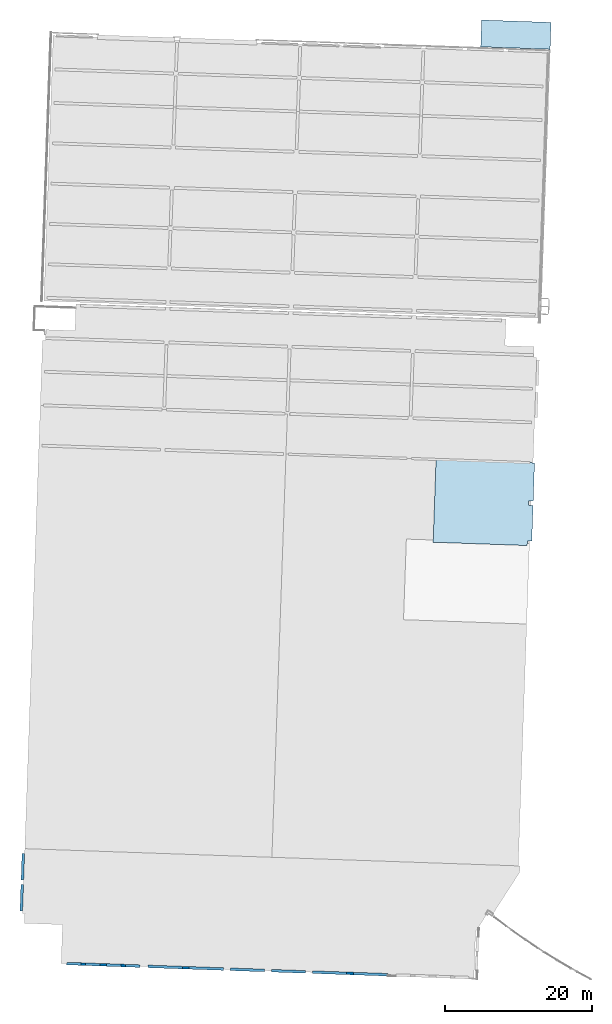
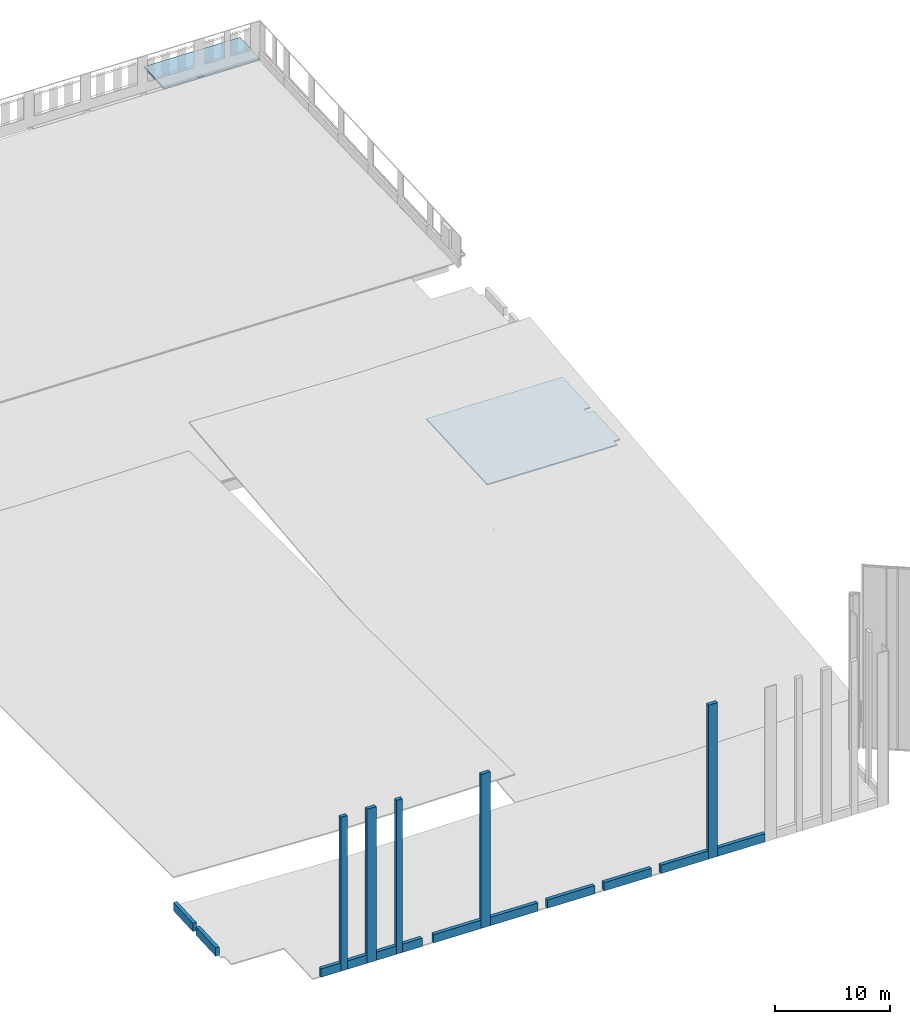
# One storey, part 9 of 17: 17 walls, 2 slabs.
"""IFC2X3 building model written with IfcOpenShell, lengths in feet."""

from ifc_helpers import new_model, entity, si_unit, converted_unit, derived_unit, direction, frame, frame_2d, origin, place, context, subcontext, project, spatial, polyline, rectangle, outline, extrude, material, layer, layer_set, layer_usage, type_object, element, save


model = new_model("IFC2X3")

# Units and contexts
model_context = context("Model", 3, precision=0.0001, world=origin(), true_north=direction((0.999390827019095, 0.0348994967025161)))
body_context = subcontext(model_context, "Body", "Model", "MODEL_VIEW")
ifc_project = project(units=[converted_unit("LENGTHUNIT", "FOOT", entity("IfcRatioMeasure", 0.3048), si_unit("LENGTHUNIT", "METRE"), dimensions=[1, 0, 0, 0, 0, 0, 0]), converted_unit("AREAUNIT", "SQUARE FOOT", entity("IfcRatioMeasure", 0.09290304), si_unit("AREAUNIT", "SQUARE_METRE"), dimensions=[2, 0, 0, 0, 0, 0, 0]), converted_unit("VOLUMEUNIT", "CUBIC FOOT", entity("IfcRatioMeasure", 0.028316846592), si_unit("VOLUMEUNIT", "CUBIC_METRE"), dimensions=[3, 0, 0, 0, 0, 0, 0]), converted_unit("PLANEANGLEUNIT", "DEGREE", entity("IfcRatioMeasure", 0.0174532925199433), si_unit("PLANEANGLEUNIT", "RADIAN"), dimensions=[0, 0, 0, 0, 0, 0, 0]), si_unit("MASSUNIT", "GRAM", prefix="KILO"), si_unit("TIMEUNIT", "SECOND"), si_unit("FREQUENCYUNIT", "HERTZ"), si_unit("THERMODYNAMICTEMPERATUREUNIT", "DEGREE_CELSIUS"), derived_unit("THERMALTRANSMITTANCEUNIT", [(si_unit("MASSUNIT", "GRAM", prefix="KILO"), 1), (si_unit("THERMODYNAMICTEMPERATUREUNIT", "KELVIN"), -1), (si_unit("TIMEUNIT", "SECOND"), -3)]), derived_unit("VOLUMETRICFLOWRATEUNIT", [(si_unit("LENGTHUNIT", "METRE"), 3), (si_unit("TIMEUNIT", "SECOND"), -1)]), si_unit("ELECTRICCURRENTUNIT", "AMPERE"), si_unit("ELECTRICVOLTAGEUNIT", "VOLT"), si_unit("POWERUNIT", "WATT"), si_unit("FORCEUNIT", "NEWTON"), si_unit("ILLUMINANCEUNIT", "LUX"), si_unit("LUMINOUSFLUXUNIT", "LUMEN"), si_unit("LUMINOUSINTENSITYUNIT", "CANDELA"), derived_unit("USERDEFINED", [(si_unit("MASSUNIT", "GRAM", prefix="KILO"), -1), (si_unit("LENGTHUNIT", "METRE"), -2), (si_unit("TIMEUNIT", "SECOND"), 3), (si_unit("LUMINOUSFLUXUNIT", "LUMEN"), 1)]), derived_unit("LINEARVELOCITYUNIT", [(si_unit("LENGTHUNIT", "METRE"), 1), (si_unit("TIMEUNIT", "SECOND"), -1)]), si_unit("PRESSUREUNIT", "PASCAL"), derived_unit("USERDEFINED", [(si_unit("LENGTHUNIT", "METRE"), -2), (si_unit("MASSUNIT", "GRAM", prefix="KILO"), 1), (si_unit("TIMEUNIT", "SECOND"), -2)])], contexts=[model_context])

# Site, building, storey
site_placement = place(None, frame((892.518771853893, 322.38689265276, 0.00393700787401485), z_axis=(0.0, 0.0, 1.0), x_axis=(0.0348994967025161, 0.999390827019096, 0.0)))
site = spatial("IfcSite", under=ifc_project, at=site_placement, Name="Default", CompositionType="ELEMENT")
building_placement = place(site_placement, origin())
building = spatial("IfcBuilding", under=site, at=building_placement, CompositionType="ELEMENT")
storey_placement = place(building_placement, frame((0.0, 0.0, 557.0)))
storey = spatial("IfcBuildingStorey", under=building, at=storey_placement, Name="Existing Garage - 1st Level", CompositionType="ELEMENT", Elevation=557.0)

# Slabs
ifc_material_1 = material(Name="Concrete - Cast-in-Place Concrete")
ifc_layer_1 = layer(ifc_material_1, 0.416666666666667)
ifc_layer_set_1 = layer_set([ifc_layer_1], Name="Floor:Concrete Slab - 5\"")
ifc_layer_usage_1 = layer_usage(ifc_layer_set_1, "AXIS3", "POSITIVE", 0.0)
slab_1_placement = place(storey_placement, origin())
element("IfcSlab", 1, at=slab_1_placement, inside=storey, material=ifc_layer_usage_1, Name="Floor:Concrete Slab - 5\"", ObjectType="Floor:Concrete Slab - 5\"", PredefinedType="FLOOR", context=body_context, shape_type="SweptSolid", body=[
    extrude(outline(polyline([(-7.59999999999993, -15.4000000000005), (34.3999999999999, -15.4000000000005), (34.3999999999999, 21.600000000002), (-9.59999999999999, 21.600000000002), (-9.59999999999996, 4.59999999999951), (-7.59999999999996, 4.59999999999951), (-7.59999999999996, 2.59999999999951), (-9.60000000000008, 2.59999999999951), (-9.60000000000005, -13.4000000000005), (-7.59999999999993, -13.4000000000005), (-7.59999999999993, -15.4000000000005)])), frame((18.327254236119, 245.363953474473, 0.0), z_axis=(0.0, 0.0, -1.0), x_axis=(0.0, 1.0, 0.0)), (0.0, 0.0, 1.0), 0.416666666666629),
])
ifc_layer_2 = layer(ifc_material_1, 0.666666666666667)
ifc_layer_set_2 = layer_set([ifc_layer_2], Name="Floor:Concrete Slab - 8\"")
ifc_layer_usage_2 = layer_usage(ifc_layer_set_2, "AXIS3", "POSITIVE", 0.0)
slab_2_placement = place(storey_placement, origin())
element("IfcSlab", 2, at=slab_2_placement, inside=storey, material=ifc_layer_usage_2, Name="Floor:Concrete Slab - 8\"", ObjectType="Floor:Concrete Slab - 8\"", PredefinedType="FLOOR", context=body_context, shape_type="SweptSolid", body=[
    extrude(rectangle(XDim=30.9999999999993, YDim=11.9999999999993, at=frame_2d((-1.4210854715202e-14, 0.0), x_axis=(1.0, 0.0))), frame((230.593959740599, 250.763953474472, -3.5), z_axis=(0.0, 0.0, -1.0), x_axis=(0.0, 1.0, 0.0)), (0.0, 0.0, 1.0), 0.666666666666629),
])

# Walls
ifc_material_2 = material(Name="Masonry - Brick")
ifc_layer_3 = layer(ifc_material_2, 0.302083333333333)
ifc_material_3 = material(Name="Misc. Air Layers - Air Space")
ifc_layer_4 = layer(ifc_material_3, 0.197916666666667)
ifc_material_4 = material(Name="Concrete - Cast-in-Place Concrete_hatch surface")
ifc_layer_5 = layer(ifc_material_4, 0.666666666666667)
ifc_layer_set_3 = layer_set([ifc_layer_3, ifc_layer_4, ifc_layer_5], Name="Basic Wall:(existing)Exterior - Brick on Conc - 1'-2\"(2\" air space)")
ifc_layer_usage_3 = layer_usage(ifc_layer_set_3, "AXIS2", "POSITIVE", -0.583333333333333)
wall_type_1 = type_object("IfcWallType", Name="Basic Wall:(existing)Exterior - Brick on Conc - 1'-2\"(2\" air space)", PredefinedType="STANDARD", material=ifc_layer_set_3)
wall_1_placement = place(storey_placement, frame((-190.656079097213, 436.597423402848, 0.0), z_axis=(0.0, 0.0, 1.0), x_axis=(0.0, -1.0, 0.0)))
element("IfcWallStandardCase", 3, at=wall_1_placement, inside=storey, type_object=wall_type_1, material=ifc_layer_usage_3, Name="Basic Wall:(existing)Exterior - Brick on Conc - 1'-2\"(2\" air space)", ObjectType="Basic Wall:(existing)Exterior - Brick on Conc - 1'-2\"(2\" air space)", context=body_context, shape_type="SweptSolid", body=[
    extrude(rectangle(XDim=6.41670081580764, YDim=1.16666666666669, at=frame_2d((3.20835040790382, -3.38618022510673e-15), x_axis=(-1.0, 0.0))), origin(), (0.0, 0.0, 1.0), 2.89583333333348),
])
ifc_layer_usage_4 = layer_usage(ifc_layer_set_3, "AXIS2", "POSITIVE", -0.583333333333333)
wall_2_placement = place(storey_placement, frame((-190.656079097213, 428.180722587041, 0.0), z_axis=(0.0, 0.0, 1.0), x_axis=(0.0, -1.0, 0.0)))
element("IfcWallStandardCase", 4, at=wall_2_placement, inside=storey, type_object=wall_type_1, material=ifc_layer_usage_4, Name="Basic Wall:(existing)Exterior - Brick on Conc - 1'-2\"(2\" air space)", ObjectType="Basic Wall:(existing)Exterior - Brick on Conc - 1'-2\"(2\" air space)", context=body_context, shape_type="SweptSolid", body=[
    extrude(rectangle(XDim=6.41670081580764, YDim=1.16666666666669, at=frame_2d((3.20835040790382, -3.38618022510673e-15), x_axis=(-1.0, 0.0))), origin(), (0.0, 0.0, 1.0), 2.89583333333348),
])
ifc_layer_usage_5 = layer_usage(ifc_layer_set_3, "AXIS2", "POSITIVE", -0.583333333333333)
wall_3_placement = place(storey_placement, frame((-190.656079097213, 418.764021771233, 0.0), z_axis=(0.0, 0.0, 1.0), x_axis=(0.0, -1.0, 0.0)))
element("IfcWallStandardCase", 5, at=wall_3_placement, inside=storey, type_object=wall_type_1, material=ifc_layer_usage_5, Name="Basic Wall:(existing)Exterior - Brick on Conc - 1'-2\"(2\" air space)", ObjectType="Basic Wall:(existing)Exterior - Brick on Conc - 1'-2\"(2\" air space)", context=body_context, shape_type="SweptSolid", body=[
    extrude(rectangle(XDim=6.41670081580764, YDim=1.16666666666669, at=frame_2d((3.20835040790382, -3.38618022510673e-15), x_axis=(-1.0, 0.0))), origin(), (0.0, 0.0, 1.0), 2.89583333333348),
])
ifc_layer_usage_6 = layer_usage(ifc_layer_set_3, "AXIS2", "POSITIVE", -0.583333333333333)
wall_4_placement = place(storey_placement, frame((-190.656079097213, 410.347320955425, 0.0), z_axis=(0.0, 0.0, 1.0), x_axis=(0.0, -1.0, 0.0)))
element("IfcWallStandardCase", 6, at=wall_4_placement, inside=storey, type_object=wall_type_1, material=ifc_layer_usage_6, Name="Basic Wall:(existing)Exterior - Brick on Conc - 1'-2\"(2\" air space)", ObjectType="Basic Wall:(existing)Exterior - Brick on Conc - 1'-2\"(2\" air space)", context=body_context, shape_type="SweptSolid", body=[
    extrude(rectangle(XDim=6.41670081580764, YDim=1.16666666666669, at=frame_2d((3.20835040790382, -3.38618022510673e-15), x_axis=(-1.0, 0.0))), origin(), (0.0, 0.0, 1.0), 2.89583333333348),
])
ifc_layer_usage_7 = layer_usage(ifc_layer_set_3, "AXIS2", "POSITIVE", -0.583333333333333)
wall_5_placement = place(storey_placement, frame((-190.656079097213, 400.263953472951, 0.0), z_axis=(0.0, 0.0, 1.0), x_axis=(0.0, -1.0, 0.0)))
element("IfcWallStandardCase", 7, at=wall_5_placement, inside=storey, type_object=wall_type_1, material=ifc_layer_usage_7, Name="Basic Wall:(existing)Exterior - Brick on Conc - 1'-2\"(2\" air space)", ObjectType="Basic Wall:(existing)Exterior - Brick on Conc - 1'-2\"(2\" air space)", context=body_context, shape_type="SweptSolid", body=[
    extrude(rectangle(XDim=15.3333333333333, YDim=1.16666666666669, at=frame_2d((7.66666666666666, 6.10622663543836e-16), x_axis=(-1.0, 0.0))), origin(), (0.0, 0.0, 1.0), 2.89583333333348),
])
ifc_layer_usage_8 = layer_usage(ifc_layer_set_3, "AXIS2", "POSITIVE", -0.583333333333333)
wall_6_placement = place(storey_placement, frame((-190.656079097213, 381.930620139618, 0.0), z_axis=(0.0, 0.0, 1.0), x_axis=(0.0, -1.0, 0.0)))
element("IfcWallStandardCase", 8, at=wall_6_placement, inside=storey, type_object=wall_type_1, material=ifc_layer_usage_8, Name="Basic Wall:(existing)Exterior - Brick on Conc - 1'-2\"(2\" air space)", ObjectType="Basic Wall:(existing)Exterior - Brick on Conc - 1'-2\"(2\" air space)", context=body_context, shape_type="SweptSolid", body=[
    extrude(rectangle(XDim=15.3333333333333, YDim=1.16666666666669, at=frame_2d((7.66666666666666, 6.10622663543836e-16), x_axis=(-1.0, 0.0))), origin(), (0.0, 0.0, 1.0), 2.89583333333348),
])
ifc_layer_usage_9 = layer_usage(ifc_layer_set_3, "AXIS2", "POSITIVE", -0.583333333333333)
wall_7_placement = place(storey_placement, frame((-190.656079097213, 363.597286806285, 0.0), z_axis=(0.0, 0.0, 1.0), x_axis=(0.0, -1.0, 0.0)))
element("IfcWallStandardCase", 9, at=wall_7_placement, inside=storey, type_object=wall_type_1, material=ifc_layer_usage_9, Name="Basic Wall:(existing)Exterior - Brick on Conc - 1'-2\"(2\" air space)", ObjectType="Basic Wall:(existing)Exterior - Brick on Conc - 1'-2\"(2\" air space)", context=body_context, shape_type="SweptSolid", body=[
    extrude(rectangle(XDim=15.3333333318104, YDim=1.16666666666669, at=frame_2d((7.66666666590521, 6.10622663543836e-16), x_axis=(-1.0, 0.0))), origin(), (0.0, 0.0, 1.0), 2.89583333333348),
])
ifc_layer_usage_10 = layer_usage(ifc_layer_set_3, "AXIS2", "POSITIVE", -0.583333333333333)
wall_8_placement = place(storey_placement, frame((-190.656079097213, 345.263953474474, 0.0), z_axis=(0.0, 0.0, 1.0), x_axis=(0.0, -1.0, 0.0)))
element("IfcWallStandardCase", 10, at=wall_8_placement, inside=storey, type_object=wall_type_1, material=ifc_layer_usage_10, Name="Basic Wall:(existing)Exterior - Brick on Conc - 1'-2\"(2\" air space)", ObjectType="Basic Wall:(existing)Exterior - Brick on Conc - 1'-2\"(2\" air space)", context=body_context, shape_type="SweptSolid", body=[
    extrude(rectangle(XDim=15.3331147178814, YDim=1.16666666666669, at=frame_2d((7.66655735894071, 6.10622663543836e-16), x_axis=(-1.0, 0.0))), origin(), (0.0, 0.0, 1.0), 2.89583333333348),
])
ifc_layer_usage_11 = layer_usage(ifc_layer_set_3, "AXIS2", "POSITIVE", -0.583333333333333)
wall_9_placement = place(storey_placement, frame((-190.656079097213, 326.930838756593, 0.0), z_axis=(0.0, 0.0, 1.0), x_axis=(0.0, -1.0, 0.0)))
element("IfcWallStandardCase", 11, at=wall_9_placement, inside=storey, type_object=wall_type_1, material=ifc_layer_usage_11, Name="Basic Wall:(existing)Exterior - Brick on Conc - 1'-2\"(2\" air space)", ObjectType="Basic Wall:(existing)Exterior - Brick on Conc - 1'-2\"(2\" air space)", context=body_context, shape_type="SweptSolid", body=[
    extrude(rectangle(XDim=15.3333333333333, YDim=1.16666666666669, at=frame_2d((7.66666666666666, 6.10622663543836e-16), x_axis=(-1.0, 0.0))), origin(), (0.0, 0.0, 1.0), 2.89583333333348),
])
ifc_layer_usage_12 = layer_usage(ifc_layer_set_3, "AXIS2", "POSITIVE", -0.583333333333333)
wall_10_placement = place(storey_placement, frame((-190.656079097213, 308.59750542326, 0.0), z_axis=(0.0, 0.0, 1.0), x_axis=(0.0, -1.0, 0.0)))
element("IfcWallStandardCase", 12, at=wall_10_placement, inside=storey, type_object=wall_type_1, material=ifc_layer_usage_12, Name="Basic Wall:(existing)Exterior - Brick on Conc - 1'-2\"(2\" air space)", ObjectType="Basic Wall:(existing)Exterior - Brick on Conc - 1'-2\"(2\" air space)", context=body_context, shape_type="SweptSolid", body=[
    extrude(rectangle(XDim=15.3333333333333, YDim=1.16666666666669, at=frame_2d((7.66666666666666, 6.10622663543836e-16), x_axis=(-1.0, 0.0))), origin(), (0.0, 0.0, 1.0), 2.89583333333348),
])
ifc_layer_usage_13 = layer_usage(ifc_layer_set_3, "AXIS2", "POSITIVE", -0.583333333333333)
wall_11_placement = place(storey_placement, frame((-156.072745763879, 457.680620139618, 0.0), z_axis=(0.0, 0.0, 1.0), x_axis=(-1.0, 0.0, 0.0)))
element("IfcWallStandardCase", 13, at=wall_11_placement, inside=storey, type_object=wall_type_1, material=ifc_layer_usage_13, Name="Basic Wall:(existing)Exterior - Brick on Conc - 1'-2\"(2\" air space)", ObjectType="Basic Wall:(existing)Exterior - Brick on Conc - 1'-2\"(2\" air space)", context=body_context, shape_type="SweptSolid", body=[
    extrude(rectangle(XDim=11.8333333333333, YDim=1.16666666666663, at=frame_2d((5.91666666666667, -5.32907051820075e-15), x_axis=(-1.0, 0.0))), origin(), (0.0, 0.0, 1.0), 2.89583333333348),
])
ifc_layer_usage_14 = layer_usage(ifc_layer_set_3, "AXIS2", "NEGATIVE", 0.583333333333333)
wall_12_placement = place(storey_placement, frame((-154.072745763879, 457.680620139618, 0.0)))
element("IfcWallStandardCase", 14, at=wall_12_placement, inside=storey, type_object=wall_type_1, material=ifc_layer_usage_14, Name="Basic Wall:(existing)Exterior - Brick on Conc - 1'-2\"(2\" air space)", ObjectType="Basic Wall:(existing)Exterior - Brick on Conc - 1'-2\"(2\" air space)", context=body_context, shape_type="SweptSolid", body=[
    extrude(rectangle(XDim=11.8333333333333, YDim=1.16666666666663, at=frame_2d((5.91666666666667, 5.32907051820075e-15), x_axis=(-1.0, 0.0))), origin(), (0.0, 0.0, 1.0), 2.89583333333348),
])
ifc_layer_6 = layer(ifc_material_2, 0.302083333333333)
ifc_material_5 = material(Name="Air Barrier - Air Infiltration Barrier")
ifc_layer_7 = layer(ifc_material_5, 0.229166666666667)
ifc_material_6 = material(Name="Masonry - Concrete Masonry Units")
ifc_layer_8 = layer(ifc_material_6, 0.635416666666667)
ifc_layer_set_4 = layer_set([ifc_layer_6, ifc_layer_7, ifc_layer_8], Name="Basic Wall:(existing) Exterior - Brick on CMU - 1'-2\"")
ifc_layer_usage_15 = layer_usage(ifc_layer_set_4, "AXIS2", "POSITIVE", -0.583333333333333)
wall_type_2 = type_object("IfcWallType", Name="Basic Wall:(existing) Exterior - Brick on CMU - 1'-2\"", PredefinedType="STANDARD", material=ifc_layer_set_4)
wall_13_placement = place(storey_placement, frame((-190.656079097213, 384.930620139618, 0.0), z_axis=(0.0, 0.0, 1.0), x_axis=(0.0, -1.0, 0.0)))
element("IfcWallStandardCase", 15, at=wall_13_placement, inside=storey, type_object=wall_type_2, material=ifc_layer_usage_15, Name="Basic Wall:(existing) Exterior - Brick on CMU - 1'-2\"", ObjectType="Basic Wall:(existing) Exterior - Brick on CMU - 1'-2\"", context=body_context, shape_type="SweptSolid", body=[
    extrude(rectangle(XDim=3.0, YDim=1.16666666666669, at=frame_2d((1.5, 0.0), x_axis=(-1.0, 0.0))), origin(), (0.0, 0.0, 1.0), 53.5625),
])
ifc_layer_usage_16 = layer_usage(ifc_layer_set_4, "AXIS2", "POSITIVE", -0.583333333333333)
wall_14_placement = place(storey_placement, frame((-190.656079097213, 421.764021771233, 0.0), z_axis=(0.0, 0.0, 1.0), x_axis=(0.0, -1.0, 0.0)))
element("IfcWallStandardCase", 16, at=wall_14_placement, inside=storey, type_object=wall_type_2, material=ifc_layer_usage_16, Name="Basic Wall:(existing) Exterior - Brick on CMU - 1'-2\"", ObjectType="Basic Wall:(existing) Exterior - Brick on CMU - 1'-2\"", context=body_context, shape_type="SweptSolid", body=[
    extrude(rectangle(XDim=3.0, YDim=1.16666666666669, at=frame_2d((1.5, 0.0), x_axis=(-1.0, 0.0))), origin(), (0.0, 0.0, 1.0), 53.5625),
])
ifc_layer_usage_17 = layer_usage(ifc_layer_set_4, "AXIS2", "POSITIVE", -0.583333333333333)
wall_15_placement = place(storey_placement, frame((-190.656079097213, 430.180722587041, 0.0), z_axis=(0.0, 0.0, 1.0), x_axis=(0.0, -1.0, 0.0)))
element("IfcWallStandardCase", 17, at=wall_15_placement, inside=storey, type_object=wall_type_2, material=ifc_layer_usage_17, Name="Basic Wall:(existing) Exterior - Brick on CMU - 1'-2\"", ObjectType="Basic Wall:(existing) Exterior - Brick on CMU - 1'-2\"", context=body_context, shape_type="SweptSolid", body=[
    extrude(rectangle(XDim=2.0, YDim=1.16666666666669, at=frame_2d((1.0, 0.0), x_axis=(-1.0, 0.0))), origin(), (0.0, 0.0, 1.0), 53.5625),
])
ifc_layer_usage_18 = layer_usage(ifc_layer_set_4, "AXIS2", "POSITIVE", -0.583333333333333)
wall_16_placement = place(storey_placement, frame((-190.656079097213, 412.347320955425, 0.0), z_axis=(0.0, 0.0, 1.0), x_axis=(0.0, -1.0, 0.0)))
element("IfcWallStandardCase", 18, at=wall_16_placement, inside=storey, type_object=wall_type_2, material=ifc_layer_usage_18, Name="Basic Wall:(existing) Exterior - Brick on CMU - 1'-2\"", ObjectType="Basic Wall:(existing) Exterior - Brick on CMU - 1'-2\"", context=body_context, shape_type="SweptSolid", body=[
    extrude(rectangle(XDim=2.0, YDim=1.16666666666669, at=frame_2d((1.0, 0.0), x_axis=(-1.0, 0.0))), origin(), (0.0, 0.0, 1.0), 53.5625),
])
ifc_layer_usage_19 = layer_usage(ifc_layer_set_4, "AXIS2", "NEGATIVE", 0.583333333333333)
wall_17_placement = place(storey_placement, frame((-190.656079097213, 308.59750542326, 0.0), z_axis=(0.0, 0.0, 1.0), x_axis=(0.0, 1.0, 0.0)))
element("IfcWallStandardCase", 19, at=wall_17_placement, inside=storey, type_object=wall_type_2, material=ifc_layer_usage_19, Name="Basic Wall:(existing) Exterior - Brick on CMU - 1'-2\"", ObjectType="Basic Wall:(existing) Exterior - Brick on CMU - 1'-2\"", context=body_context, shape_type="SweptSolid", body=[
    extrude(rectangle(XDim=3.0, YDim=1.16666666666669, at=frame_2d((1.5, 0.0), x_axis=(-1.0, 0.0))), origin(), (0.0, 0.0, 1.0), 53.5625),
])

save(model, "model.ifc")
